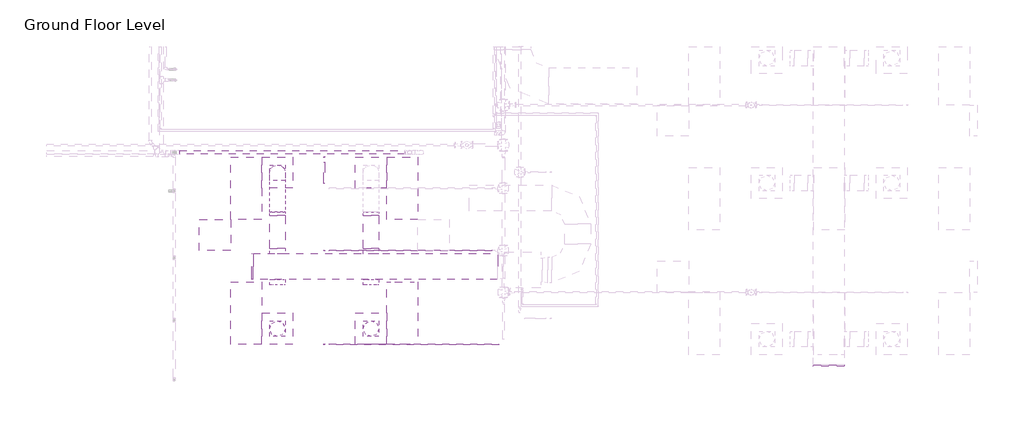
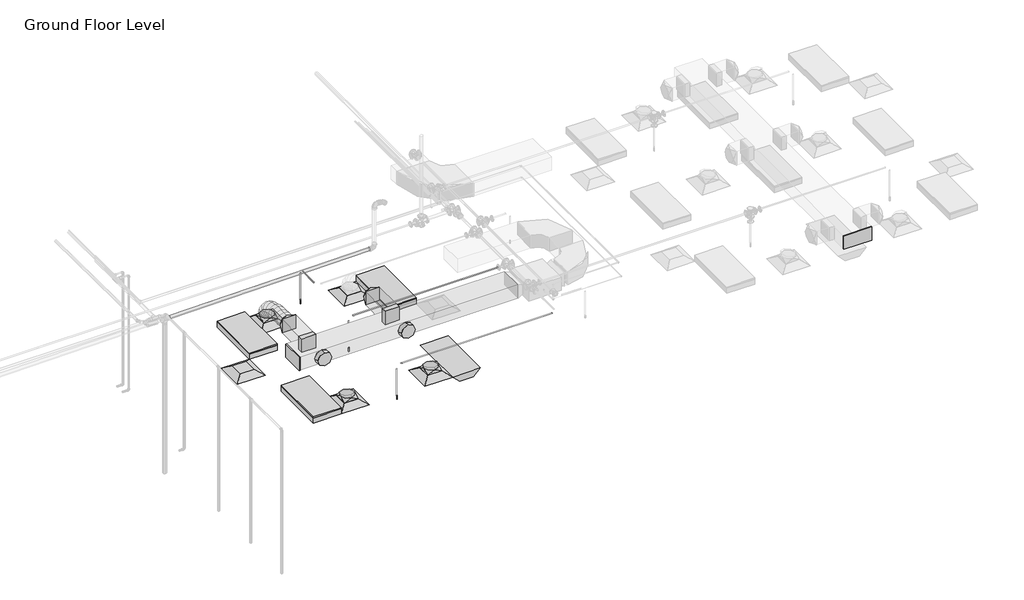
# One storey, part 13 of 66: 11 duct fittings, 7 pipe segments, 6 duct segments, 5 air terminals, 4 light fixtures, 3 fire suppression terminals.
"""IFC4 building model written with IfcOpenShell, lengths in millimetres."""

from ifc_helpers import new_model, si_unit, point, frame, frame_2d, origin, place, context, project, spatial, polyline, circle_curve, ellipse_curve, trimmed, segment, composite_curve, outline, extrude, transform, mapped, element, save
from ifc_brep_helpers import plane_surface, cylinder_surface, advanced_brep
from components import m_return_diffuser_600_x_600_face_300_x_300_connection_ff221211, m_rectangular_endcap_standard_72d4d00d, m_rectangular_endcap_standard_0f0ff112, m_rectangular_takeoff_standard_2be5eba1, m_rectangular_to_round_transition_angle_45_degree_641efff0, m_round_takeoff_standard_603b0510, m_sprinkler_dry_pendent_hosted_15_mm_dry_pendent_9bda8e11, m_emergency_recessed_lighting_fixture_600x1200_277_5b10b25d, m_troffer_light_parabolic_rectangular1_0600x1200mm_4_lamp_86473d4a

model = new_model("IFC4")

# Units and contexts
model_context = context("Model", 3, world=origin())
ifc_project = project(units=[si_unit("LENGTHUNIT", "METRE", prefix="MILLI")], contexts=[model_context])

# Site, building, storey
site = spatial("IfcSite", under=ifc_project)
building = spatial("IfcBuilding", under=site)
storey = spatial("IfcBuildingStorey", under=building, Name="Ground Floor Level", Elevation=900.0)

# Air terminals
placement = place(None, origin())
m_return_diffuser_600_x_600_face_300_x_300_connection_shape = m_return_diffuser_600_x_600_face_300_x_300_connection_ff221211(model_context)
element("IfcAirTerminal", 1, ObjectType="M_Return Diffuser : 600 x 600 Face 300 x 300 Connection", at=placement, inside=storey, context=model_context, shape_type="MappedRepresentation", body=[
    mapped(m_return_diffuser_600_x_600_face_300_x_300_connection_shape, transform((142.7672394, -37764.7846466, 3650.0), x_axis=(1.0, 0.0, 0.0), y_axis=(0.0, 1.0, 0.0), z_axis=(0.0, 0.0, 1.0))),
])
element("IfcAirTerminal", 2, ObjectType="M_Supply Diffuser : 600 x 600 Face 300 x 300 Connection", at=placement, inside=storey, context=model_context, shape_type="MappedRepresentation", body=[
    mapped(m_return_diffuser_600_x_600_face_300_x_300_connection_shape, transform((1342.7672394, -36564.7846466, 3650.0), x_axis=(1.0, 0.0, 0.0), y_axis=(0.0, 1.0, 0.0), z_axis=(0.0, 0.0, 1.0))),
])
element("IfcAirTerminal", 3, ObjectType="M_Supply Diffuser : 600 x 600 Face 300 x 300 Connection", at=placement, inside=storey, context=model_context, shape_type="MappedRepresentation", body=[
    mapped(m_return_diffuser_600_x_600_face_300_x_300_connection_shape, transform((3142.7672394, -36564.7846466, 3650.0), x_axis=(1.0, 0.0, 0.0), y_axis=(0.0, 1.0, 0.0), z_axis=(0.0, 0.0, 1.0))),
])
element("IfcAirTerminal", 4, ObjectType="M_Supply Diffuser : 600 x 600 Face 300 x 300 Connection", at=placement, inside=storey, context=model_context, shape_type="MappedRepresentation", body=[
    mapped(m_return_diffuser_600_x_600_face_300_x_300_connection_shape, transform((1342.7672394, -39564.7846466, 3650.0), x_axis=(1.0, 0.0, 0.0), y_axis=(0.0, 1.0, 0.0), z_axis=(0.0, 0.0, 1.0))),
])
element("IfcAirTerminal", 5, ObjectType="M_Supply Diffuser : 600 x 600 Face 300 x 300 Connection", at=placement, inside=storey, context=model_context, shape_type="MappedRepresentation", body=[
    mapped(m_return_diffuser_600_x_600_face_300_x_300_connection_shape, transform((3142.7672394, -39564.7846466, 3650.0), x_axis=(1.0, 0.0, 0.0), y_axis=(0.0, 1.0, 0.0), z_axis=(0.0, 0.0, 1.0))),
])

# Duct fittings
m_rectangular_endcap_standard_shape = m_rectangular_endcap_standard_72d4d00d(model_context)
element("IfcDuctFitting", 6, ObjectType="M_Rectangular Endcap : Standard", at=placement, inside=storey, context=model_context, shape_type="MappedRepresentation", body=[
    mapped(m_rectangular_endcap_standard_shape, transform((877.3672394, -38372.6128682, 4100.0), x_axis=(-0.9999999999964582, 0.0, -2.6615447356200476e-06), y_axis=(0.0, -1.0000000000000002, 0.0), z_axis=(-2.6615447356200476e-06, 0.0, 0.9999999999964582))),
])
m_rectangular_endcap_standard_2_shape = m_rectangular_endcap_standard_0f0ff112(model_context)
element("IfcDuctFitting", 7, ObjectType="M_Rectangular Endcap : Standard", at=placement, inside=storey, context=model_context, shape_type="MappedRepresentation", body=[
    mapped(m_rectangular_endcap_standard_2_shape, transform((11933.8644074, -40264.7726336, 4099.9875), x_axis=(0.0, -1.0, 0.0), y_axis=(1.0, 0.0, 0.0), z_axis=(0.0, 0.0, 1.0))),
])
m_rectangular_takeoff_standard_shape = m_rectangular_takeoff_standard_2be5eba1(model_context)
element("IfcDuctFitting", 8, ObjectType="M_Rectangular Takeoff : Standard", at=placement, inside=storey, context=model_context, shape_type="MappedRepresentation", body=[
    mapped(m_rectangular_takeoff_standard_shape, transform((3142.7672394, -38122.6128682, 4100.0), x_axis=(0.0, 1.0, 0.0), y_axis=(1.0, 0.0, 0.0), z_axis=(0.0, 0.0, -1.0))),
])
element("IfcDuctFitting", 9, ObjectType="M_Rectangular Takeoff : Standard", at=placement, inside=storey, context=model_context, shape_type="MappedRepresentation", body=[
    mapped(m_rectangular_takeoff_standard_shape, transform((1342.7672394, -38122.6128682, 4100.0), x_axis=(0.0, 1.0, 0.0), y_axis=(1.0, 0.0, 0.0), z_axis=(0.0, 0.0, -1.0))),
])
m_rectangular_to_round_transition_angle_45_degree_shape = m_rectangular_to_round_transition_angle_45_degree_641efff0(model_context)
element("IfcDuctFitting", 10, ObjectType="M_Rectangular to Round Transition - Angle : 45 Degree", at=placement, inside=storey, context=model_context, shape_type="MappedRepresentation", body=[
    mapped(m_rectangular_to_round_transition_angle_45_degree_shape, transform((1342.7672394, -39564.7846466, 3751.6), x_axis=(0.0, 0.0, 1.0), y_axis=(-1.0, 0.0, 0.0), z_axis=(0.0, -1.0, 0.0))),
])
element("IfcDuctFitting", 11, ObjectType="M_Rectangular to Round Transition - Angle : 45 Degree", at=placement, inside=storey, context=model_context, shape_type="MappedRepresentation", body=[
    mapped(m_rectangular_to_round_transition_angle_45_degree_shape, transform((3142.7672394, -39564.7846466, 3751.6), x_axis=(0.0, 0.0, 1.0), y_axis=(-1.0, 0.0, 0.0), z_axis=(0.0, -1.0, 0.0))),
])
element("IfcDuctFitting", 12, ObjectType="M_Rectangular to Round Transition - Angle : 45 Degree", at=placement, inside=storey, context=model_context, shape_type="MappedRepresentation", body=[
    mapped(m_rectangular_to_round_transition_angle_45_degree_shape, transform((3142.7672394, -37392.1205779, 4100.0), x_axis=(0.0, 1.0, 0.0), y_axis=(-1.0, 0.0, 0.0), z_axis=(0.0, 0.0, 1.0))),
])
element("IfcDuctFitting", 13, ObjectType="M_Rectangular to Round Transition - Angle : 45 Degree", at=placement, inside=storey, context=model_context, shape_type="MappedRepresentation", body=[
    mapped(m_rectangular_to_round_transition_angle_45_degree_shape, transform((1342.7672394, -36564.7846466, 3751.6), x_axis=(0.0, 0.0, 1.0), y_axis=(-1.0, 0.0, 0.0), z_axis=(0.0, -1.0, 0.0))),
])
element("IfcDuctFitting", 14, ObjectType="M_Rectangular to Round Transition - Angle : 45 Degree", at=placement, inside=storey, context=model_context, shape_type="MappedRepresentation", body=[
    mapped(m_rectangular_to_round_transition_angle_45_degree_shape, transform((1342.7672394, -37392.1205779, 4100.0), x_axis=(0.0, 1.0, 0.0), y_axis=(-1.0, 0.0, 0.0), z_axis=(0.0, 0.0, 1.0))),
])
m_round_takeoff_standard_shape = m_round_takeoff_standard_603b0510(model_context)
element("IfcDuctFitting", 15, ObjectType="M_Round Takeoff : Standard", at=placement, inside=storey, context=model_context, shape_type="MappedRepresentation", body=[
    mapped(m_round_takeoff_standard_shape, transform((1342.7672394, -38622.6128682, 4100.0), x_axis=(0.0, -1.0, 0.0), y_axis=(-1.0, 0.0, 0.0), z_axis=(0.0, 0.0, -1.0))),
])
element("IfcDuctFitting", 16, ObjectType="M_Round Takeoff : Standard", at=placement, inside=storey, context=model_context, shape_type="MappedRepresentation", body=[
    mapped(m_round_takeoff_standard_shape, transform((3142.7672394, -38622.6128682, 4100.0), x_axis=(0.0, -1.0, 0.0), y_axis=(-1.0, 0.0, 0.0), z_axis=(0.0, 0.0, -1.0))),
])

# Duct segments
element("IfcDuctSegment", 17, ObjectType="Flex - Round", at=placement, inside=storey, context=model_context, shape_type="AdvancedBrep", body=[
    advanced_brep(
    [(1492.7672394, -39564.7846466, 3826.6), (1342.7672394, -39714.7846466, 3826.6), (1192.7672394, -39564.7846466, 3826.6), (1342.7672394, -39414.7846466, 3826.6), (1492.7672394, -39564.7846466, 3860.5958413), (1342.7672394, -39414.7846466, 3830.2822637), (1192.7672394, -39564.7846466, 3860.5958413), (1342.7672394, -39714.7846466, 3890.9094188)],
    [
        (0, 1, circle_curve(frame((1342.7672394, -39564.7846466, 3826.6), z_axis=(0.0, 0.0, -1.0), x_axis=(1.0, 0.0, 0.0)), 150.0)),
        (1, 2, circle_curve(frame((1342.7672394, -39564.7846466, 3826.6), z_axis=(0.0, 0.0, -1.0), x_axis=(1.0, 0.0, 0.0)), 150.0)),
        (2, 3, circle_curve(frame((1342.7672394, -39564.7846466, 3826.6), z_axis=(0.0, 0.0, -1.0), x_axis=(1.0, 0.0, 0.0)), 150.0)),
        (3, 0, circle_curve(frame((1342.7672394, -39564.7846466, 3826.6), z_axis=(0.0, 0.0, -1.0), x_axis=(1.0, 0.0, 0.0)), 150.0)),
        (4, 5, ellipse_curve(frame((1342.7672394, -39564.7846466, 3860.5958413), z_axis=(0.0, 0.19808602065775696, 0.9801846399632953), x_axis=(0.0, 0.9801846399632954, -0.19808602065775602)), 153.0323919, 150.0)),
        (5, 6, ellipse_curve(frame((1342.7672394, -39564.7846466, 3860.5958413), z_axis=(0.0, 0.19808602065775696, 0.9801846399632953), x_axis=(0.0, 0.9801846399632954, -0.19808602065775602)), 153.0323919, 150.0)),
        (6, 7, ellipse_curve(frame((1342.7672394, -39564.7846466, 3860.5958413), z_axis=(0.0, 0.19808602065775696, 0.9801846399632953), x_axis=(0.0, 0.9801846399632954, -0.19808602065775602)), 153.0323919, 150.0)),
        (7, 4, ellipse_curve(frame((1342.7672394, -39564.7846466, 3860.5958413), z_axis=(0.0, 0.19808602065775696, 0.9801846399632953), x_axis=(0.0, 0.9801846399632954, -0.19808602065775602)), 153.0323919, 150.0)),
        (0, 4),
        (7, 1),
        (6, 2),
        (5, 3),
    ],
    [
        plane_surface(frame((1342.7672394, -39714.7846466, 3826.6), z_axis=(0.0, 0.0, -1.0), x_axis=(1.0, 0.0, 0.0))),
        plane_surface(frame((1492.7672394, -39564.7846466, 3860.5958413), z_axis=(0.0, 0.19808602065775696, 0.9801846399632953), x_axis=(0.0, 0.9801846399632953, -0.19808602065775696))),
        cylinder_surface(frame((1342.7672394, -39564.7846466, 3826.6), z_axis=(0.0, 0.0, -1.0), x_axis=(1.0, 0.0, 0.0)), 150.0),
    ],
    [
        (0, [[1, 2, 3, 4]]),
        (1, [[5, 6, 7, 8]]),
        (2, [[-1, 9, -8, 10]]),
        (2, [[-2, -10, -7, 11]]),
        (2, [[-3, -11, -6, 12]]),
        (2, [[-4, -12, -5, -9]]),
    ],
),
])
element("IfcDuctSegment", 18, ObjectType="Flex - Round", at=placement, inside=storey, context=model_context, shape_type="AdvancedBrep", body=[
    advanced_brep(
    [(3292.7672394, -39564.7846466, 3826.6), (3142.7672394, -39714.7846466, 3826.6), (2992.7672394, -39564.7846466, 3826.6), (3142.7672394, -39414.7846466, 3826.6), (3292.7672394, -39564.7846466, 3860.5958413), (3142.7672394, -39414.7846466, 3830.2822637), (2992.7672394, -39564.7846466, 3860.5958413), (3142.7672394, -39714.7846466, 3890.9094188)],
    [
        (0, 1, circle_curve(frame((3142.7672394, -39564.7846466, 3826.6), z_axis=(0.0, 0.0, -1.0), x_axis=(1.0, 0.0, 0.0)), 150.0)),
        (1, 2, circle_curve(frame((3142.7672394, -39564.7846466, 3826.6), z_axis=(0.0, 0.0, -1.0), x_axis=(1.0, 0.0, 0.0)), 150.0)),
        (2, 3, circle_curve(frame((3142.7672394, -39564.7846466, 3826.6), z_axis=(0.0, 0.0, -1.0), x_axis=(1.0, 0.0, 0.0)), 150.0)),
        (3, 0, circle_curve(frame((3142.7672394, -39564.7846466, 3826.6), z_axis=(0.0, 0.0, -1.0), x_axis=(1.0, 0.0, 0.0)), 150.0)),
        (4, 5, ellipse_curve(frame((3142.7672394, -39564.7846466, 3860.5958413), z_axis=(0.0, 0.19808602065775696, 0.9801846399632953), x_axis=(0.0, 0.9801846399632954, -0.19808602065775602)), 153.0323919, 150.0)),
        (5, 6, ellipse_curve(frame((3142.7672394, -39564.7846466, 3860.5958413), z_axis=(0.0, 0.19808602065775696, 0.9801846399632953), x_axis=(0.0, 0.9801846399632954, -0.19808602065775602)), 153.0323919, 150.0)),
        (6, 7, ellipse_curve(frame((3142.7672394, -39564.7846466, 3860.5958413), z_axis=(0.0, 0.19808602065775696, 0.9801846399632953), x_axis=(0.0, 0.9801846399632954, -0.19808602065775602)), 153.0323919, 150.0)),
        (7, 4, ellipse_curve(frame((3142.7672394, -39564.7846466, 3860.5958413), z_axis=(0.0, 0.19808602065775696, 0.9801846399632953), x_axis=(0.0, 0.9801846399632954, -0.19808602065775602)), 153.0323919, 150.0)),
        (0, 4),
        (7, 1),
        (6, 2),
        (5, 3),
    ],
    [
        plane_surface(frame((3142.7672394, -39714.7846466, 3826.6), z_axis=(0.0, 0.0, -1.0), x_axis=(1.0, 0.0, 0.0))),
        plane_surface(frame((3292.7672394, -39564.7846466, 3860.5958413), z_axis=(0.0, 0.19808602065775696, 0.9801846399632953), x_axis=(0.0, 0.9801846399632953, -0.19808602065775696))),
        cylinder_surface(frame((3142.7672394, -39564.7846466, 3826.6), z_axis=(0.0, 0.0, -1.0), x_axis=(1.0, 0.0, 0.0)), 150.0),
    ],
    [
        (0, [[1, 2, 3, 4]]),
        (1, [[5, 6, 7, 8]]),
        (2, [[-1, 9, -8, 10]]),
        (2, [[-2, -10, -7, 11]]),
        (2, [[-3, -11, -6, 12]]),
        (2, [[-4, -12, -5, -9]]),
    ],
),
])
element("IfcDuctSegment", 19, ObjectType="Flex - Round", at=placement, inside=storey, context=model_context, shape_type="AdvancedBrep", body=[
    advanced_brep(
    [(1492.7672394, -36564.7846466, 3826.6), (1342.7672394, -36714.7846466, 3826.6), (1192.7672394, -36564.7846466, 3826.6), (1342.7672394, -36414.7846466, 3826.6), (1492.7672394, -36564.7846466, 3857.9377114), (1342.7672394, -36714.7846466, 3832.2944892), (1192.7672394, -36564.7846466, 3857.9377114), (1342.7672394, -36414.7846466, 3883.5809337), (1492.7672394, -36581.8005792, 3906.2505728), (1342.7672394, -36715.5385581, 3834.435049), (1192.7672394, -36581.8005792, 3906.2505728), (1342.7672394, -36448.0626002, 3978.0660967), (1492.7672394, -36628.9844595, 3968.7113131), (1342.7672394, -36733.1903588, 3857.8020236), (1192.7672394, -36628.9844595, 3968.7113131), (1342.7672394, -36524.7785603, 4079.6206026), (1492.7672394, -36700.5404117, 4016.0700639), (1342.7672394, -36769.4744673, 3881.8163788), (1192.7672394, -36700.5404117, 4016.0700639), (1342.7672394, -36631.6063561, 4150.3237489), (1492.7672394, -36790.6725597, 4050.4146682), (1342.7672394, -36834.2333229, 3906.4925606), (1192.7672394, -36790.6725597, 4050.4146682), (1342.7672394, -36747.1117965, 4194.3367758), (1492.7672394, -36893.5850275, 4073.8329691), (1342.7672394, -36920.1459515, 3926.0424542), (1192.7672394, -36893.5850275, 4073.8329691), (1342.7672394, -36867.0241035, 4221.6234841), (1492.7672394, -37003.4819393, 4088.4128097), (1342.7672394, -37018.6328416, 3939.1085462), (1192.7672394, -37003.4819393, 4088.4128097), (1342.7672394, -36988.3310369, 4237.7170733), (1492.7672394, -37114.5674189, 4096.242033), (1342.7672394, -37122.0727471, 3946.398915), (1192.7672394, -37114.5674189, 4096.242033), (1342.7672394, -37107.0620907, 4246.085151), (1492.7672394, -37221.0455904, 4099.4084821), (1342.7672394, -37223.7370835, 3949.4222102), (1192.7672394, -37221.0455904, 4099.4084821), (1342.7672394, -37218.3540973, 4249.394754), (1492.7672394, -37317.1205779, 4100.0), (1342.7672394, -37316.1970701, 4249.9971571), (1192.7672394, -37317.1205779, 4100.0), (1342.7672394, -37318.0440857, 3950.0028429)],
    [
        (0, 1, circle_curve(frame((1342.7672394, -36564.7846466, 3826.6), z_axis=(0.0, 0.0, -1.0), x_axis=(1.0, 0.0, 0.0)), 150.0)),
        (1, 2, circle_curve(frame((1342.7672394, -36564.7846466, 3826.6), z_axis=(0.0, 0.0, -1.0), x_axis=(1.0, 0.0, 0.0)), 150.0)),
        (2, 3, circle_curve(frame((1342.7672394, -36564.7846466, 3826.6), z_axis=(0.0, 0.0, -1.0), x_axis=(1.0, 0.0, 0.0)), 150.0)),
        (3, 0, circle_curve(frame((1342.7672394, -36564.7846466, 3826.6), z_axis=(0.0, 0.0, -1.0), x_axis=(1.0, 0.0, 0.0)), 150.0)),
        (0, 4),
        (4, 5, ellipse_curve(frame((1342.7672394, -36564.7846466, 3857.9377114), z_axis=(0.0, 0.16851014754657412, -0.9856999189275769), x_axis=(0.0, -0.9856999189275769, -0.16851014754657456)), 152.176131, 150.0)),
        (5, 1),
        (5, 6, ellipse_curve(frame((1342.7672394, -36564.7846466, 3857.9377114), z_axis=(0.0, 0.16851014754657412, -0.9856999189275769), x_axis=(0.0, -0.9856999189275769, -0.16851014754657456)), 152.176131, 150.0)),
        (6, 2),
        (6, 7, ellipse_curve(frame((1342.7672394, -36564.7846466, 3857.9377114), z_axis=(0.0, 0.16851014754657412, -0.9856999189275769), x_axis=(0.0, -0.9856999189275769, -0.16851014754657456)), 152.176131, 150.0)),
        (7, 3),
        (7, 4, ellipse_curve(frame((1342.7672394, -36564.7846466, 3857.9377114), z_axis=(0.0, 0.16851014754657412, -0.9856999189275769), x_axis=(0.0, -0.9856999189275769, -0.16851014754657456)), 152.176131, 150.0)),
        (4, 8),
        (8, 9, ellipse_curve(frame((1342.7672394, -36581.8005792, 3906.2505728), z_axis=(0.0, 0.47309225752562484, -0.8810128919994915), x_axis=(0.0, -0.8810128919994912, -0.4730922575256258)), 151.8002519, 150.0)),
        (9, 5),
        (9, 10, ellipse_curve(frame((1342.7672394, -36581.8005792, 3906.2505728), z_axis=(0.0, 0.47309225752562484, -0.8810128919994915), x_axis=(0.0, -0.8810128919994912, -0.4730922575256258)), 151.8002519, 150.0)),
        (10, 6),
        (10, 11, ellipse_curve(frame((1342.7672394, -36581.8005792, 3906.2505728), z_axis=(0.0, 0.47309225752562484, -0.8810128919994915), x_axis=(0.0, -0.8810128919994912, -0.4730922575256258)), 151.8002519, 150.0)),
        (11, 7),
        (11, 8, ellipse_curve(frame((1342.7672394, -36581.8005792, 3906.2505728), z_axis=(0.0, 0.47309225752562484, -0.8810128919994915), x_axis=(0.0, -0.8810128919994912, -0.4730922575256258)), 151.8002519, 150.0)),
        (8, 12),
        (12, 13, ellipse_curve(frame((1342.7672394, -36628.9844595, 3968.7113131), z_axis=(0.0, 0.7287877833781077, -0.6847396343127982), x_axis=(0.0, -0.6847396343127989, -0.7287877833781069)), 152.1832446, 150.0)),
        (13, 9),
        (13, 14, ellipse_curve(frame((1342.7672394, -36628.9844595, 3968.7113131), z_axis=(0.0, 0.7287877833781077, -0.6847396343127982), x_axis=(0.0, -0.6847396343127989, -0.7287877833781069)), 152.1832446, 150.0)),
        (14, 10),
        (14, 15, ellipse_curve(frame((1342.7672394, -36628.9844595, 3968.7113131), z_axis=(0.0, 0.7287877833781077, -0.6847396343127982), x_axis=(0.0, -0.6847396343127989, -0.7287877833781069)), 152.1832446, 150.0)),
        (15, 11),
        (15, 12, ellipse_curve(frame((1342.7672394, -36628.9844595, 3968.7113131), z_axis=(0.0, 0.7287877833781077, -0.6847396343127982), x_axis=(0.0, -0.6847396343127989, -0.7287877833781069)), 152.1832446, 150.0)),
        (12, 16),
        (16, 17, ellipse_curve(frame((1342.7672394, -36700.5404117, 4016.0700639), z_axis=(0.0, 0.8895859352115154, -0.45676784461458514), x_axis=(0.0, -0.45676784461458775, -0.8895859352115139)), 150.91705, 150.0)),
        (17, 13),
        (17, 18, ellipse_curve(frame((1342.7672394, -36700.5404117, 4016.0700639), z_axis=(0.0, 0.8895859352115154, -0.45676784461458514), x_axis=(0.0, -0.45676784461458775, -0.8895859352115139)), 150.91705, 150.0)),
        (18, 14),
        (18, 19, ellipse_curve(frame((1342.7672394, -36700.5404117, 4016.0700639), z_axis=(0.0, 0.8895859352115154, -0.45676784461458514), x_axis=(0.0, -0.45676784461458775, -0.8895859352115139)), 150.91705, 150.0)),
        (19, 15),
        (19, 16, ellipse_curve(frame((1342.7672394, -36700.5404117, 4016.0700639), z_axis=(0.0, 0.8895859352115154, -0.45676784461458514), x_axis=(0.0, -0.45676784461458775, -0.8895859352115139)), 150.91705, 150.0)),
        (16, 20),
        (20, 21, ellipse_curve(frame((1342.7672394, -36790.6725597, 4050.4146682), z_axis=(0.0, 0.957120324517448, -0.28969067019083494), x_axis=(0.0, -0.28969067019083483, -0.9571203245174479)), 150.369921, 150.0)),
        (21, 17),
        (21, 22, ellipse_curve(frame((1342.7672394, -36790.6725597, 4050.4146682), z_axis=(0.0, 0.957120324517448, -0.28969067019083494), x_axis=(0.0, -0.28969067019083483, -0.9571203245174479)), 150.369921, 150.0)),
        (22, 18),
        (22, 23, ellipse_curve(frame((1342.7672394, -36790.6725597, 4050.4146682), z_axis=(0.0, 0.957120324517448, -0.28969067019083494), x_axis=(0.0, -0.28969067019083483, -0.9571203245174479)), 150.369921, 150.0)),
        (23, 19),
        (23, 20, ellipse_curve(frame((1342.7672394, -36790.6725597, 4050.4146682), z_axis=(0.0, 0.957120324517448, -0.28969067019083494), x_axis=(0.0, -0.28969067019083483, -0.9571203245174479)), 150.369921, 150.0)),
        (20, 24),
        (24, 25, ellipse_curve(frame((1342.7672394, -36893.5850275, 4073.8329691), z_axis=(0.0, 0.9842313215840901, -0.17688613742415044), x_axis=(0.0, -0.1768861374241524, -0.9842313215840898)), 150.1583131, 150.0)),
        (25, 21),
        (25, 26, ellipse_curve(frame((1342.7672394, -36893.5850275, 4073.8329691), z_axis=(0.0, 0.9842313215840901, -0.17688613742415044), x_axis=(0.0, -0.1768861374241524, -0.9842313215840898)), 150.1583131, 150.0)),
        (26, 22),
        (26, 27, ellipse_curve(frame((1342.7672394, -36893.5850275, 4073.8329691), z_axis=(0.0, 0.9842313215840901, -0.17688613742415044), x_axis=(0.0, -0.1768861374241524, -0.9842313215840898)), 150.1583131, 150.0)),
        (27, 23),
        (27, 24, ellipse_curve(frame((1342.7672394, -36893.5850275, 4073.8329691), z_axis=(0.0, 0.9842313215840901, -0.17688613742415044), x_axis=(0.0, -0.1768861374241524, -0.9842313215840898)), 150.1583131, 150.0)),
        (24, 28),
        (28, 29, ellipse_curve(frame((1342.7672394, -37003.4819393, 4088.4128097), z_axis=(0.0, 0.9948906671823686, -0.10095821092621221), x_axis=(0.0, -0.10095821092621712, -0.9948906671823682)), 150.0710264, 150.0)),
        (29, 25),
        (29, 30, ellipse_curve(frame((1342.7672394, -37003.4819393, 4088.4128097), z_axis=(0.0, 0.9948906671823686, -0.10095821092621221), x_axis=(0.0, -0.10095821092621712, -0.9948906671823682)), 150.0710264, 150.0)),
        (30, 26),
        (30, 31, ellipse_curve(frame((1342.7672394, -37003.4819393, 4088.4128097), z_axis=(0.0, 0.9948906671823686, -0.10095821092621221), x_axis=(0.0, -0.10095821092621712, -0.9948906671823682)), 150.0710264, 150.0)),
        (31, 27),
        (31, 28, ellipse_curve(frame((1342.7672394, -37003.4819393, 4088.4128097), z_axis=(0.0, 0.9948906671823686, -0.10095821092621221), x_axis=(0.0, -0.10095821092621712, -0.9948906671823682)), 150.0710264, 150.0)),
        (28, 32),
        (32, 33, ellipse_curve(frame((1342.7672394, -37114.5674189, 4096.242033), z_axis=(0.0, 0.9987479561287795, -0.05002519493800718), x_axis=(0.0, -0.0500251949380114, -0.9987479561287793)), 150.0309634, 150.0)),
        (33, 29),
        (33, 34, ellipse_curve(frame((1342.7672394, -37114.5674189, 4096.242033), z_axis=(0.0, 0.9987479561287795, -0.05002519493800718), x_axis=(0.0, -0.0500251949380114, -0.9987479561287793)), 150.0309634, 150.0)),
        (34, 30),
        (34, 35, ellipse_curve(frame((1342.7672394, -37114.5674189, 4096.242033), z_axis=(0.0, 0.9987479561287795, -0.05002519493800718), x_axis=(0.0, -0.0500251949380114, -0.9987479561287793)), 150.0309634, 150.0)),
        (35, 31),
        (35, 32, ellipse_curve(frame((1342.7672394, -37114.5674189, 4096.242033), z_axis=(0.0, 0.9987479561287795, -0.05002519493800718), x_axis=(0.0, -0.0500251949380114, -0.9987479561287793)), 150.0309634, 150.0)),
        (32, 36),
        (36, 37, ellipse_curve(frame((1342.7672394, -37221.0455904, 4099.4084821), z_axis=(0.0, 0.9998390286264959, -0.017942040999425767), x_axis=(0.0, -0.017942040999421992, -0.999839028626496)), 150.0104193, 150.0)),
        (37, 33),
        (37, 38, ellipse_curve(frame((1342.7672394, -37221.0455904, 4099.4084821), z_axis=(0.0, 0.9998390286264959, -0.017942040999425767), x_axis=(0.0, -0.017942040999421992, -0.999839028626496)), 150.0104193, 150.0)),
        (38, 34),
        (38, 39, ellipse_curve(frame((1342.7672394, -37221.0455904, 4099.4084821), z_axis=(0.0, 0.9998390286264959, -0.017942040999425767), x_axis=(0.0, -0.017942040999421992, -0.999839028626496)), 150.0104193, 150.0)),
        (39, 35),
        (39, 36, ellipse_curve(frame((1342.7672394, -37221.0455904, 4099.4084821), z_axis=(0.0, 0.9998390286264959, -0.017942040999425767), x_axis=(0.0, -0.017942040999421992, -0.999839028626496)), 150.0104193, 150.0)),
        (40, 41, circle_curve(frame((1342.7672394, -37317.1205779, 4100.0), z_axis=(0.0, -0.9999810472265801, 0.006156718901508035), x_axis=(1.0, 0.0, 0.0)), 150.0)),
        (41, 42, circle_curve(frame((1342.7672394, -37317.1205779, 4100.0), z_axis=(0.0, -0.9999810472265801, 0.006156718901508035), x_axis=(1.0, 0.0, 0.0)), 150.0)),
        (42, 43, circle_curve(frame((1342.7672394, -37317.1205779, 4100.0), z_axis=(0.0, -0.9999810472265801, 0.006156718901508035), x_axis=(1.0, 0.0, 0.0)), 150.0)),
        (43, 40, circle_curve(frame((1342.7672394, -37317.1205779, 4100.0), z_axis=(0.0, -0.9999810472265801, 0.006156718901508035), x_axis=(1.0, 0.0, 0.0)), 150.0)),
        (36, 40),
        (43, 37),
        (42, 38),
        (41, 39),
    ],
    [
        plane_surface(frame((1342.7672394, -36714.7846466, 3826.6), z_axis=(0.0, 0.0, -1.0), x_axis=(1.0, 0.0, 0.0))),
        cylinder_surface(frame((1342.7672394, -36564.7846466, 3826.6), z_axis=(0.0, 0.0, -1.0), x_axis=(1.0, 0.0, 0.0)), 150.0),
        cylinder_surface(frame((1342.7672394, -36564.7846466, 3857.9377114), z_axis=(0.0, 0.3322008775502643, -0.9432086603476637), x_axis=(1.0, 0.0, 0.0)), 150.0),
        cylinder_surface(frame((1342.7672394, -36581.8005792, 3906.2505728), z_axis=(0.0, 0.6027625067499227, -0.7979206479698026), x_axis=(1.0, 0.0, 0.0)), 150.0),
        cylinder_surface(frame((1342.7672394, -36628.9844595, 3968.7113131), z_axis=(0.0, 0.8339024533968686, -0.5519118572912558), x_axis=(1.0, 0.0, 0.0)), 150.0),
        cylinder_surface(frame((1342.7672394, -36700.5404117, 4016.0700639), z_axis=(0.0, 0.9344582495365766, -0.35607271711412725), x_axis=(1.0, 0.0, 0.0)), 150.0),
        cylinder_surface(frame((1342.7672394, -36790.6725597, 4050.4146682), z_axis=(0.0, 0.975073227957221, -0.22188330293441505), x_axis=(1.0, 0.0, 0.0)), 150.0),
        cylinder_surface(frame((1342.7672394, -36893.5850275, 4073.8329691), z_axis=(0.0, 0.991314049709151, -0.13151598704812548), x_axis=(1.0, 0.0, 0.0)), 150.0),
        cylinder_surface(frame((1342.7672394, -37003.4819393, 4088.4128097), z_axis=(0.0, 0.9975255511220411, -0.07030487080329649), x_axis=(1.0, 0.0, 0.0)), 150.0),
        cylinder_surface(frame((1342.7672394, -37114.5674189, 4096.242033), z_axis=(0.0, 0.9995581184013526, -0.029724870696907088), x_axis=(1.0, 0.0, 0.0)), 150.0),
        plane_surface(frame((1342.7672394, -37318.0440857, 3950.0028429), z_axis=(0.0, -0.9999810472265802, 0.006156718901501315), x_axis=(1.0, 0.0, 0.0))),
        cylinder_surface(frame((1342.7672394, -37221.0455904, 4099.4084821), z_axis=(0.0, 0.9999810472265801, -0.006156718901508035), x_axis=(1.0, 0.0, 0.0)), 150.0),
    ],
    [
        (0, [[1, 2, 3, 4]]),
        (1, [[-1, 5, 6, 7]]),
        (1, [[-2, -7, 8, 9]]),
        (1, [[-3, -9, 10, 11]]),
        (1, [[-4, -11, 12, -5]]),
        (2, [[-6, 13, 14, 15]]),
        (2, [[-8, -15, 16, 17]]),
        (2, [[-10, -17, 18, 19]]),
        (2, [[-12, -19, 20, -13]]),
        (3, [[-14, 21, 22, 23]]),
        (3, [[-16, -23, 24, 25]]),
        (3, [[-18, -25, 26, 27]]),
        (3, [[-20, -27, 28, -21]]),
        (4, [[-22, 29, 30, 31]]),
        (4, [[-24, -31, 32, 33]]),
        (4, [[-26, -33, 34, 35]]),
        (4, [[-28, -35, 36, -29]]),
        (5, [[-30, 37, 38, 39]]),
        (5, [[-32, -39, 40, 41]]),
        (5, [[-34, -41, 42, 43]]),
        (5, [[-36, -43, 44, -37]]),
        (6, [[-38, 45, 46, 47]]),
        (6, [[-40, -47, 48, 49]]),
        (6, [[-42, -49, 50, 51]]),
        (6, [[-44, -51, 52, -45]]),
        (7, [[-46, 53, 54, 55]]),
        (7, [[-48, -55, 56, 57]]),
        (7, [[-50, -57, 58, 59]]),
        (7, [[-52, -59, 60, -53]]),
        (8, [[-54, 61, 62, 63]]),
        (8, [[-56, -63, 64, 65]]),
        (8, [[-58, -65, 66, 67]]),
        (8, [[-60, -67, 68, -61]]),
        (9, [[-62, 69, 70, 71]]),
        (9, [[-64, -71, 72, 73]]),
        (9, [[-66, -73, 74, 75]]),
        (9, [[-68, -75, 76, -69]]),
        (10, [[77, 78, 79, 80]]),
        (11, [[-70, 81, -80, 82]]),
        (11, [[-72, -82, -79, 83]]),
        (11, [[-74, -83, -78, 84]]),
        (11, [[-76, -84, -77, -81]]),
    ],
),
])
element("IfcDuctSegment", 20, ObjectType="Radius Elbows / Taps", at=placement, inside=storey, context=model_context, shape_type="SweptSolid", body=[
    extrude(outline(polyline([(5573.8880106, -38122.6128682), (5573.8880106, -38622.6128682), (877.3672394, -38622.6128682), (877.3672394, -38122.6128682), (5573.8880106, -38122.6128682)])), frame((0.0, 0.0, 3950.0), z_axis=(0.0, 0.0, 1.0), x_axis=(1.0, 0.0, 0.0)), (0.0, 0.0, 1.0), 300.0),
])
element("IfcDuctSegment", 21, ObjectType="Radius Elbows / Taps", at=placement, inside=storey, context=model_context, shape_type="SweptSolid", body=[
    extrude(outline(polyline([(3292.7672394, -38021.0128682), (2992.7672394, -38021.0128682), (2992.7672394, -37392.1205779), (3292.7672394, -37392.1205779), (3292.7672394, -38021.0128682)])), frame((0.0, 0.0, 3950.0), z_axis=(0.0, 0.0, 1.0), x_axis=(1.0, 0.0, 0.0)), (0.0, 0.0, 1.0), 300.0),
])
element("IfcDuctSegment", 22, ObjectType="Radius Elbows / Taps", at=placement, inside=storey, context=model_context, shape_type="SweptSolid", body=[
    extrude(outline(polyline([(1492.7672394, -38021.0128682), (1192.7672394, -38021.0128682), (1192.7672394, -37392.1205779), (1492.7672394, -37392.1205779), (1492.7672394, -38021.0128682)])), frame((0.0, 0.0, 3950.0), z_axis=(0.0, 0.0, 1.0), x_axis=(1.0, 0.0, 0.0)), (0.0, 0.0, 1.0), 300.0),
])

# Fire suppression terminals
m_sprinkler_dry_pendent_hosted_15_mm_dry_pendent_shape = m_sprinkler_dry_pendent_hosted_15_mm_dry_pendent_9bda8e11(model_context)
element("IfcFireSuppressionTerminal", 23, ObjectType="M_Sprinkler - Dry - Pendent - Hosted : 15 mm Dry Pendent", at=placement, inside=storey, context=model_context, shape_type="MappedRepresentation", body=[
    mapped(m_sprinkler_dry_pendent_hosted_15_mm_dry_pendent_shape, transform((2242.7672394, -39864.7846466, 3650.0), x_axis=(1.0, 0.0, 0.0), y_axis=(0.0, -1.0, 0.0), z_axis=(0.0, 0.0, -1.0))),
])
element("IfcFireSuppressionTerminal", 24, ObjectType="M_Sprinkler - Dry - Pendent - Hosted : 15 mm Dry Pendent", at=placement, inside=storey, context=model_context, shape_type="MappedRepresentation", body=[
    mapped(m_sprinkler_dry_pendent_hosted_15_mm_dry_pendent_shape, transform((2242.7672394, -36264.7846466, 3650.0), x_axis=(1.0, 0.0, 0.0), y_axis=(0.0, -1.0, 0.0), z_axis=(0.0, 0.0, -1.0))),
])
element("IfcFireSuppressionTerminal", 25, ObjectType="M_Sprinkler - Dry - Pendent - Hosted : 15 mm Dry Pendent", at=placement, inside=storey, context=model_context, shape_type="MappedRepresentation", body=[
    mapped(m_sprinkler_dry_pendent_hosted_15_mm_dry_pendent_shape, transform((2242.7672394, -38064.7846466, 3650.0), x_axis=(1.0, 0.0, 0.0), y_axis=(0.0, -1.0, 0.0), z_axis=(0.0, 0.0, -1.0))),
])

# Light fixtures
m_emergency_recessed_lighting_fixture_600x1200_277_shape = m_emergency_recessed_lighting_fixture_600x1200_277_5b10b25d(model_context)
element("IfcLightFixture", 26, ObjectType="M_Emergency Recessed Lighting Fixture : 600x1200 - 277", at=placement, inside=storey, context=model_context, shape_type="MappedRepresentation", body=[
    mapped(m_emergency_recessed_lighting_fixture_600x1200_277_shape, transform((3442.7672394, -39864.7846466, 3650.0), x_axis=(0.0, 1.0, 0.0), y_axis=(-1.0, 0.0, 0.0), z_axis=(0.0, 0.0, 1.0))),
])
m_troffer_light_parabolic_rectangular1_0600x1200mm_4_lamp_shape = m_troffer_light_parabolic_rectangular1_0600x1200mm_4_lamp_86473d4a(model_context)
element("IfcLightFixture", 27, ObjectType="M_Troffer Light - Parabolic Rectangular1 : 0600x1200mm(4 Lamp) - 277V 2", at=placement, inside=storey, context=model_context, shape_type="MappedRepresentation", body=[
    mapped(m_troffer_light_parabolic_rectangular1_0600x1200mm_4_lamp_shape, transform((683.3013073, -36846.081145, 3650.0), x_axis=(0.0, 1.0, 0.0), y_axis=(-1.0, 0.0, 0.0), z_axis=(0.0, 0.0, 1.0))),
])
element("IfcLightFixture", 28, ObjectType="M_Troffer Light - Parabolic Rectangular1 : 0600x1200mm(4 Lamp) - 277V 2", at=placement, inside=storey, context=model_context, shape_type="MappedRepresentation", body=[
    mapped(m_troffer_light_parabolic_rectangular1_0600x1200mm_4_lamp_shape, transform((683.3013073, -39246.081145, 3650.0), x_axis=(0.0, 1.0, 0.0), y_axis=(-1.0, 0.0, 0.0), z_axis=(0.0, 0.0, 1.0))),
])
element("IfcLightFixture", 29, ObjectType="M_Troffer Light - Parabolic Rectangular1 : 0600x1200mm(4 Lamp) - 277V 2", at=placement, inside=storey, context=model_context, shape_type="MappedRepresentation", body=[
    mapped(m_troffer_light_parabolic_rectangular1_0600x1200mm_4_lamp_shape, transform((3683.3013073, -36846.081145, 3650.0), x_axis=(0.0, 1.0, 0.0), y_axis=(-1.0, 0.0, 0.0), z_axis=(0.0, 0.0, 1.0))),
])

# Pipe segments
element("IfcPipeSegment", 30, ObjectType="PVC - DWV", at=placement, inside=storey, context=model_context, shape_type="SweptSolid", body=[
    extrude(outline(composite_curve([segment(trimmed(circle_curve(frame_2d((0.0, 36.5125)), 36.5125), [point((0.0, 0.0))], [point((-36.5125, 36.5125))], False, "CARTESIAN"), True, "CONTINUOUS"), segment(trimmed(circle_curve(frame_2d((0.0, 36.5125)), 36.5125), [point((-36.5125, 36.5125))], [point((0.0, 73.025))], False, "CARTESIAN"), True, "CONTINUOUS"), segment(trimmed(circle_curve(frame_2d((0.0, 36.5125)), 36.5125), [point((0.0, 73.025))], [point((36.5125, 36.5125))], False, "CARTESIAN"), True, "CONTINUOUS"), segment(trimmed(circle_curve(frame_2d((0.0, 36.5125)), 36.5125), [point((36.5125, 36.5125))], [point((0.0, 0.0))], False, "CARTESIAN"), True, "CONTINUOUS")], self_intersect=False)), frame((-535.7518107, -36212.6526483, 4165.088417), z_axis=(0.9999500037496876, 0.0, 0.009999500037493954), x_axis=(0.009999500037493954, 0.0, -0.9999500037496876)), (0.0, 0.0, 1.0), 4321.3662316),
])
element("IfcPipeSegment", 31, ObjectType="Steel flanged", at=placement, inside=storey, context=model_context, shape_type="SweptSolid", body=[
    extrude(outline(composite_curve([segment(trimmed(circle_curve(frame_2d((2242.7672394, -38064.7846466)), 10.668), [point((2232.0992394, -38064.7846466))], [point((2242.7672394, -38054.1166466))], False, "CARTESIAN"), True, "CONTINUOUS"), segment(trimmed(circle_curve(frame_2d((2242.7672394, -38064.7846466)), 10.668), [point((2242.7672394, -38054.1166466))], [point((2253.4352394, -38064.7846466))], False, "CARTESIAN"), True, "CONTINUOUS"), segment(trimmed(circle_curve(frame_2d((2242.7672394, -38064.7846466)), 10.668), [point((2253.4352394, -38064.7846466))], [point((2242.7672394, -38075.4526466))], False, "CARTESIAN"), True, "CONTINUOUS"), segment(trimmed(circle_curve(frame_2d((2242.7672394, -38064.7846466)), 10.668), [point((2242.7672394, -38075.4526466))], [point((2232.0992394, -38064.7846466))], False, "CARTESIAN"), True, "CONTINUOUS")], self_intersect=False)), frame((0.0, 0.0, 3650.0), z_axis=(0.0, 0.0, 1.0), x_axis=(1.0, 0.0, 0.0)), (0.0, 0.0, 1.0), 604.4914062),
])
element("IfcPipeSegment", 32, ObjectType="Steel flanged", at=placement, inside=storey, context=model_context, shape_type="SweptSolid", body=[
    extrude(outline(composite_curve([segment(trimmed(circle_curve(frame_2d((-38064.7846466, 4347.5)), 10.668), [point((-38075.4526466, 4347.5))], [point((-38064.7846466, 4358.168))], False, "CARTESIAN"), True, "CONTINUOUS"), segment(trimmed(circle_curve(frame_2d((-38064.7846466, 4347.5)), 10.668), [point((-38064.7846466, 4358.168))], [point((-38054.1166466, 4347.5))], False, "CARTESIAN"), True, "CONTINUOUS"), segment(trimmed(circle_curve(frame_2d((-38064.7846466, 4347.5)), 10.668), [point((-38054.1166466, 4347.5))], [point((-38064.7846466, 4336.832))], False, "CARTESIAN"), True, "CONTINUOUS"), segment(trimmed(circle_curve(frame_2d((-38064.7846466, 4347.5)), 10.668), [point((-38064.7846466, 4336.832))], [point((-38075.4526466, 4347.5))], False, "CARTESIAN"), True, "CONTINUOUS")], self_intersect=False)), frame((2335.7758332, 0.0, 0.0), z_axis=(1.0, 0.0, 0.0), x_axis=(0.0, 1.0, 0.0)), (0.0, 0.0, 1.0), 3128.7430625),
])
element("IfcPipeSegment", 33, ObjectType="Steel flanged", at=placement, inside=storey, context=model_context, shape_type="SweptSolid", body=[
    extrude(outline(composite_curve([segment(trimmed(circle_curve(frame_2d((2242.7672394, -39864.7846466)), 10.668), [point((2232.0992394, -39864.7846466))], [point((2242.7672394, -39854.1166466))], False, "CARTESIAN"), True, "CONTINUOUS"), segment(trimmed(circle_curve(frame_2d((2242.7672394, -39864.7846466)), 10.668), [point((2242.7672394, -39854.1166466))], [point((2253.4352394, -39864.7846466))], False, "CARTESIAN"), True, "CONTINUOUS"), segment(trimmed(circle_curve(frame_2d((2242.7672394, -39864.7846466)), 10.668), [point((2253.4352394, -39864.7846466))], [point((2242.7672394, -39875.4526466))], False, "CARTESIAN"), True, "CONTINUOUS"), segment(trimmed(circle_curve(frame_2d((2242.7672394, -39864.7846466)), 10.668), [point((2242.7672394, -39875.4526466))], [point((2232.0992394, -39864.7846466))], False, "CARTESIAN"), True, "CONTINUOUS")], self_intersect=False)), frame((0.0, 0.0, 3650.0), z_axis=(0.0, 0.0, 1.0), x_axis=(1.0, 0.0, 0.0)), (0.0, 0.0, 1.0), 604.4914062),
])
element("IfcPipeSegment", 34, ObjectType="Steel flanged", at=placement, inside=storey, context=model_context, shape_type="SweptSolid", body=[
    extrude(outline(composite_curve([segment(trimmed(circle_curve(frame_2d((-39864.7846466, 4347.5)), 10.668), [point((-39875.4526466, 4347.5))], [point((-39864.7846466, 4358.168))], False, "CARTESIAN"), True, "CONTINUOUS"), segment(trimmed(circle_curve(frame_2d((-39864.7846466, 4347.5)), 10.668), [point((-39864.7846466, 4358.168))], [point((-39854.1166466, 4347.5))], False, "CARTESIAN"), True, "CONTINUOUS"), segment(trimmed(circle_curve(frame_2d((-39864.7846466, 4347.5)), 10.668), [point((-39854.1166466, 4347.5))], [point((-39864.7846466, 4336.832))], False, "CARTESIAN"), True, "CONTINUOUS"), segment(trimmed(circle_curve(frame_2d((-39864.7846466, 4347.5)), 10.668), [point((-39864.7846466, 4336.832))], [point((-39875.4526466, 4347.5))], False, "CARTESIAN"), True, "CONTINUOUS")], self_intersect=False)), frame((2335.7758332, 0.0, 0.0), z_axis=(1.0, 0.0, 0.0), x_axis=(0.0, 1.0, 0.0)), (0.0, 0.0, 1.0), 3255.8330625),
])
element("IfcPipeSegment", 35, ObjectType="Steel flanged", at=placement, inside=storey, context=model_context, shape_type="SweptSolid", body=[
    extrude(outline(composite_curve([segment(trimmed(circle_curve(frame_2d((4347.5, 2242.7672394)), 10.668), [point((4347.5, 2232.0992394))], [point((4336.832, 2242.7672394))], False, "CARTESIAN"), True, "CONTINUOUS"), segment(trimmed(circle_curve(frame_2d((4347.5, 2242.7672394)), 10.668), [point((4336.832, 2242.7672394))], [point((4347.5, 2253.4352394))], False, "CARTESIAN"), True, "CONTINUOUS"), segment(trimmed(circle_curve(frame_2d((4347.5, 2242.7672394)), 10.668), [point((4347.5, 2253.4352394))], [point((4358.168, 2242.7672394))], False, "CARTESIAN"), True, "CONTINUOUS"), segment(trimmed(circle_curve(frame_2d((4347.5, 2242.7672394)), 10.668), [point((4358.168, 2242.7672394))], [point((4347.5, 2232.0992394))], False, "CARTESIAN"), True, "CONTINUOUS")], self_intersect=False)), frame((0.0, -36771.7760529, 0.0), z_axis=(0.0, 1.0, 0.0), x_axis=(0.0, 0.0, 1.0)), (0.0, 0.0, 1.0), 413.9828125),
])
element("IfcPipeSegment", 36, ObjectType="Steel flanged", at=placement, inside=storey, context=model_context, shape_type="SweptSolid", body=[
    extrude(outline(composite_curve([segment(trimmed(circle_curve(frame_2d((2242.7672394, -36264.7846466)), 10.668), [point((2232.0992394, -36264.7846466))], [point((2242.7672394, -36254.1166466))], False, "CARTESIAN"), True, "CONTINUOUS"), segment(trimmed(circle_curve(frame_2d((2242.7672394, -36264.7846466)), 10.668), [point((2242.7672394, -36254.1166466))], [point((2253.4352394, -36264.7846466))], False, "CARTESIAN"), True, "CONTINUOUS"), segment(trimmed(circle_curve(frame_2d((2242.7672394, -36264.7846466)), 10.668), [point((2253.4352394, -36264.7846466))], [point((2242.7672394, -36275.4526466))], False, "CARTESIAN"), True, "CONTINUOUS"), segment(trimmed(circle_curve(frame_2d((2242.7672394, -36264.7846466)), 10.668), [point((2242.7672394, -36275.4526466))], [point((2232.0992394, -36264.7846466))], False, "CARTESIAN"), True, "CONTINUOUS")], self_intersect=False)), frame((0.0, 0.0, 3650.0), z_axis=(0.0, 0.0, 1.0), x_axis=(1.0, 0.0, 0.0)), (0.0, 0.0, 1.0), 604.4914063),
])

save(model, "model.ifc")
